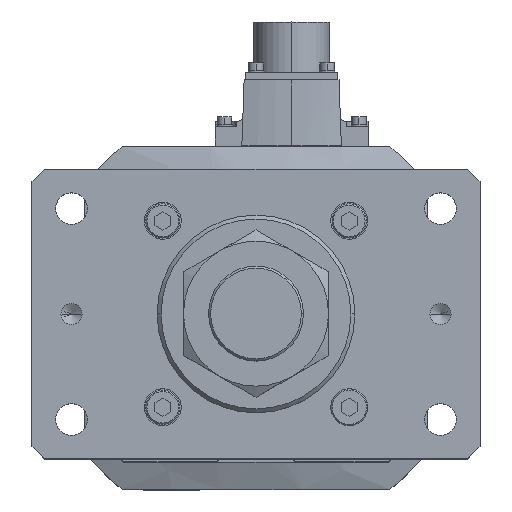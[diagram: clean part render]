
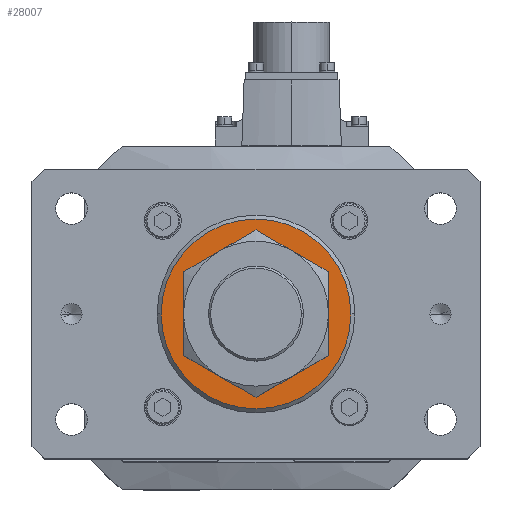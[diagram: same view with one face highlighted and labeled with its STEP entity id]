
A CAD part, top view. The second image highlights one B-rep face of the part: STEP entity #28007.
In plain terms, the highlighted planar face has unit normal (0, 0, 1).
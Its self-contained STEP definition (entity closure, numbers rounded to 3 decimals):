
#147 = DIRECTION ( 'NONE',  ( 1., 0., 0. ) ) ;
#1600 = DIRECTION ( 'NONE',  ( 1., 0., 0. ) ) ;
#2769 = CIRCLE ( 'NONE', #11349, 36. ) ;
#4773 = CIRCLE ( 'NONE', #5208, 23. ) ;
#5162 = ORIENTED_EDGE ( 'NONE', *, *, #26323, .T. ) ;
#5208 = AXIS2_PLACEMENT_3D ( 'NONE', #16180, #10129, #1600 ) ;
#5267 = AXIS2_PLACEMENT_3D ( 'NONE', #21018, #6690, #17896 ) ;
#6690 = DIRECTION ( 'NONE',  ( 0., 0., 1. ) ) ;
#6980 = AXIS2_PLACEMENT_3D ( 'NONE', #27306, #24684, #27548 ) ;
#7695 = EDGE_CURVE ( 'NONE', #8012, #26541, #15035, .T. ) ;
#8012 = VERTEX_POINT ( 'NONE', #20179 ) ;
#8541 = VERTEX_POINT ( 'NONE', #12092 ) ;
#9085 = EDGE_CURVE ( 'NONE', #26541, #8012, #2769, .T. ) ;
#10129 = DIRECTION ( 'NONE',  ( 0., 0., -1. ) ) ;
#11349 = AXIS2_PLACEMENT_3D ( 'NONE', #22737, #19975, #147 ) ;
#12092 = CARTESIAN_POINT ( 'NONE',  ( 23., 0., 646. ) ) ;
#12225 = PLANE ( 'NONE',  #5267 ) ;
#15035 = CIRCLE ( 'NONE', #36901, 36. ) ;
#16180 = CARTESIAN_POINT ( 'NONE',  ( 0., 0., 646. ) ) ;
#16286 = CIRCLE ( 'NONE', #6980, 23. ) ;
#17381 = VERTEX_POINT ( 'NONE', #23218 ) ;
#17896 = DIRECTION ( 'NONE',  ( 1., 0., 0. ) ) ;
#18846 = CARTESIAN_POINT ( 'NONE',  ( 0., 0., 646. ) ) ;
#19975 = DIRECTION ( 'NONE',  ( 0., 0., 1. ) ) ;
#20179 = CARTESIAN_POINT ( 'NONE',  ( 36., 0., 646. ) ) ;
#20425 = ORIENTED_EDGE ( 'NONE', *, *, #9085, .T. ) ;
#21018 = CARTESIAN_POINT ( 'NONE',  ( 0., 0., 646. ) ) ;
#22737 = CARTESIAN_POINT ( 'NONE',  ( 0., 0., 646. ) ) ;
#23005 = ORIENTED_EDGE ( 'NONE', *, *, #7695, .T. ) ;
#23218 = CARTESIAN_POINT ( 'NONE',  ( -23., 0., 646. ) ) ;
#23754 = ORIENTED_EDGE ( 'NONE', *, *, #28911, .T. ) ;
#23973 = FACE_BOUND ( 'NONE', #24599, .T. ) ;
#24599 = EDGE_LOOP ( 'NONE', ( #5162, #23754 ) ) ;
#24684 = DIRECTION ( 'NONE',  ( 0., 0., -1. ) ) ;
#26207 = FACE_OUTER_BOUND ( 'NONE', #27114, .T. ) ;
#26323 = EDGE_CURVE ( 'NONE', #8541, #17381, #4773, .T. ) ;
#26541 = VERTEX_POINT ( 'NONE', #30862 ) ;
#26950 = DIRECTION ( 'NONE',  ( 0., 0., 1. ) ) ;
#27114 = EDGE_LOOP ( 'NONE', ( #20425, #23005 ) ) ;
#27306 = CARTESIAN_POINT ( 'NONE',  ( 0., 0., 646. ) ) ;
#27548 = DIRECTION ( 'NONE',  ( 1., 0., 0. ) ) ;
#28007 = ADVANCED_FACE ( 'NONE', ( #23973, #26207 ), #12225, .T. ) ;
#28911 = EDGE_CURVE ( 'NONE', #17381, #8541, #16286, .T. ) ;
#30519 = DIRECTION ( 'NONE',  ( 1., 0., 0. ) ) ;
#30862 = CARTESIAN_POINT ( 'NONE',  ( -36., 0., 646. ) ) ;
#36901 = AXIS2_PLACEMENT_3D ( 'NONE', #18846, #26950, #30519 ) ;
